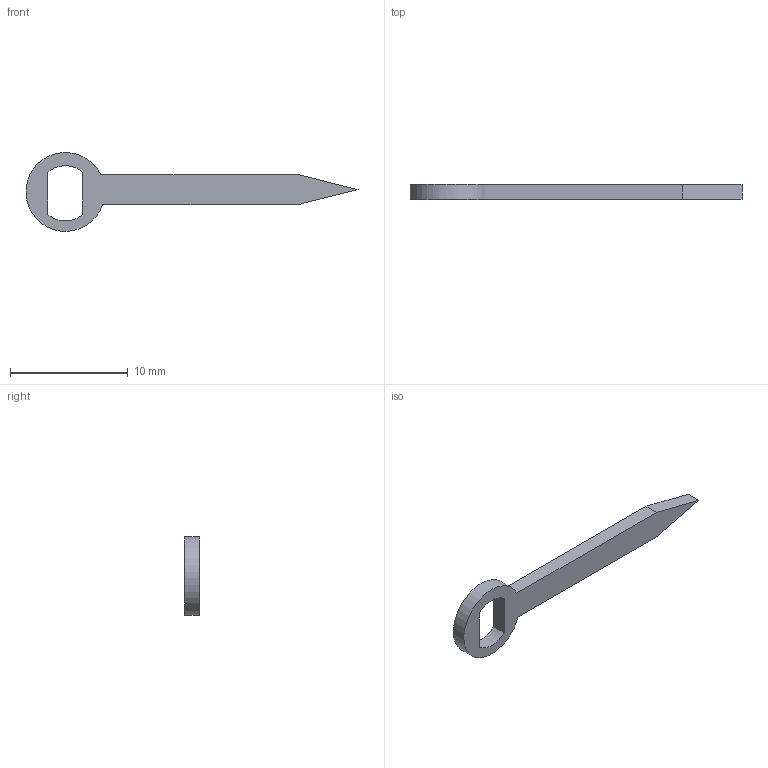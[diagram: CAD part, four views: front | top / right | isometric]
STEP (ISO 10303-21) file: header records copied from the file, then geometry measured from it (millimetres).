
FILE_DESCRIPTION(/* description */ ('STEP AP242 Edition 2','CAx-IF Rec.Pracs.---Representation and Presentation of Product Manufacturing Information (PMI)---4.0---2014-10-13','CAx-IF Rec.Pracs.---3D Tessellated Geometry---0.4---2014-09-14','2;1','CAx-IF Rec.Pracs.---User Defined Attributes---1.5---2016-08-15'),/* implementation_level */ '2;1');
FILE_NAME(/* name */ 'Assembly 1 - Part 1 (4)',/* time_stamp */ '2026-04-30T00:36:45Z',/* author */ (''),/* organization */ (''),/* preprocessor_version */ 'ST-DEVELOPER v20',/* originating_system */ 'ONSHAPE BY PTC INC, 1.214',/* authorisation */ ' ');
FILE_SCHEMA (('AP242_MANAGED_MODEL_BASED_3D_ENGINEERING_MIM_LF { 1 0 10303 442 3 1 4 }'));
Length unit declared in the file: metre
Products named in the file (1): Part 1
Bounding box: 28.25 x 1.27 x 6.7 mm (x, y, z)
Volume: 90 mm3; surface area: 238.4 mm2
Topology: 1 solids, 1 shells, 11 faces, 27 edges, 18 vertices
Faces by surface type: plane 8, cylinder 3
Entity records: 353 total; most frequent: DIRECTION 57, CARTESIAN_POINT 57, ORIENTED_EDGE 54, EDGE_CURVE 27, LINE 21, VECTOR 21, VERTEX_POINT 18, AXIS2_PLACEMENT_3D 18
